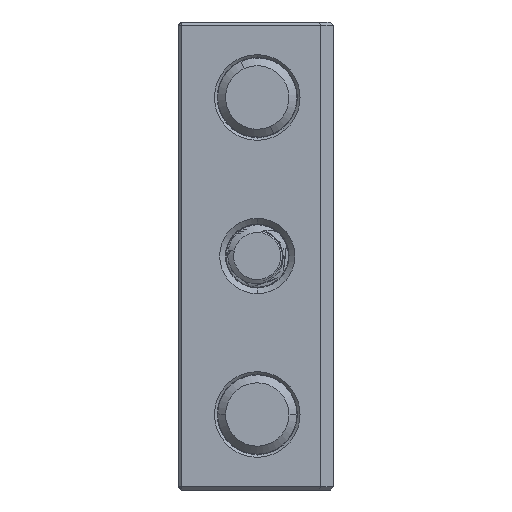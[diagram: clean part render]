
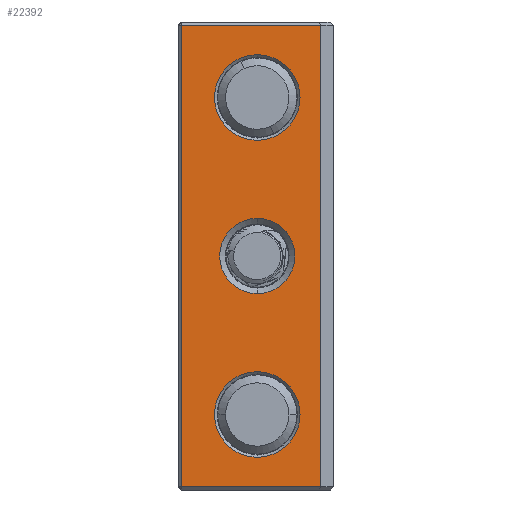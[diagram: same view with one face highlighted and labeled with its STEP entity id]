
A CAD part, left-side view. The second image highlights one B-rep face of the part: STEP entity #22392.
In plain terms, the highlighted planar face has unit normal (-1, 0, 0) as drawn and (1, 0, 0) by its records, which use the part's own axes.
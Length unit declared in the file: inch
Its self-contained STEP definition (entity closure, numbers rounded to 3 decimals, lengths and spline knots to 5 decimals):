
#273 = CARTESIAN_POINT ( 'NONE',  ( 0.98425, 0.48, 1.47638 ) ) ;
#352 = EDGE_LOOP ( 'NONE', ( #28694, #23544 ) ) ;
#532 = EDGE_CURVE ( 'NONE', #4419, #24435, #28113, .T. ) ;
#565 = EDGE_CURVE ( 'NONE', #4609, #12780, #4266, .T. ) ;
#1523 = CARTESIAN_POINT ( 'NONE',  ( 0.98425, 0.08, 2.95276 ) ) ;
#1534 = ORIENTED_EDGE ( 'NONE', *, *, #13698, .T. ) ;
#2546 = CARTESIAN_POINT ( 'NONE',  ( 0.98425, 0.96, 2.95276 ) ) ;
#2571 = DIRECTION ( 'NONE',  ( -1., 0., 0. ) ) ;
#2641 = CARTESIAN_POINT ( 'NONE',  ( 0.98425, 0.48, 0.74638 ) ) ;
#2891 = VERTEX_POINT ( 'NONE', #25054 ) ;
#3361 = CARTESIAN_POINT ( 'NONE',  ( 0.98425, 0.48, 2.47638 ) ) ;
#3440 = EDGE_CURVE ( 'NONE', #22953, #2891, #22677, .T. ) ;
#4205 = EDGE_LOOP ( 'NONE', ( #26550, #8844, #8474, #22320 ) ) ;
#4224 = VERTEX_POINT ( 'NONE', #23528 ) ;
#4266 = CIRCLE ( 'NONE', #15489, 0.27 ) ;
#4419 = VERTEX_POINT ( 'NONE', #26302 ) ;
#4609 = VERTEX_POINT ( 'NONE', #22632 ) ;
#4860 = DIRECTION ( 'NONE',  ( 0., 0., -1. ) ) ;
#5118 = DIRECTION ( 'NONE',  ( -1., 0., 0. ) ) ;
#5152 = CARTESIAN_POINT ( 'NONE',  ( 0.98425, 0., 2.93276 ) ) ;
#5658 = AXIS2_PLACEMENT_3D ( 'NONE', #17489, #23931, #12674 ) ;
#6833 = ORIENTED_EDGE ( 'NONE', *, *, #11518, .F. ) ;
#7649 = LINE ( 'NONE', #5152, #9457 ) ;
#8028 = CIRCLE ( 'NONE', #8945, 0.27 ) ;
#8474 = ORIENTED_EDGE ( 'NONE', *, *, #15599, .T. ) ;
#8598 = FACE_BOUND ( 'NONE', #352, .T. ) ;
#8844 = ORIENTED_EDGE ( 'NONE', *, *, #3440, .T. ) ;
#8945 = AXIS2_PLACEMENT_3D ( 'NONE', #21903, #26597, #28638 ) ;
#9175 = FACE_BOUND ( 'NONE', #21939, .T. ) ;
#9295 = DIRECTION ( 'NONE',  ( 0., 0., 1. ) ) ;
#9457 = VECTOR ( 'NONE', #25812, 39.37008 ) ;
#9660 = VERTEX_POINT ( 'NONE', #13074 ) ;
#11266 = CARTESIAN_POINT ( 'NONE',  ( 0.98425, 0.98, 0.02 ) ) ;
#11518 = EDGE_CURVE ( 'NONE', #24435, #4419, #15672, .T. ) ;
#11626 = DIRECTION ( 'NONE',  ( 1., 0., 0. ) ) ;
#12608 = DIRECTION ( 'NONE',  ( 0., 0., -1. ) ) ;
#12674 = DIRECTION ( 'NONE',  ( 0., 0., -1. ) ) ;
#12780 = VERTEX_POINT ( 'NONE', #2641 ) ;
#13074 = CARTESIAN_POINT ( 'NONE',  ( 0.98425, 0.48, 1.71358 ) ) ;
#13584 = EDGE_LOOP ( 'NONE', ( #19379, #1534 ) ) ;
#13698 = EDGE_CURVE ( 'NONE', #9660, #4224, #26047, .T. ) ;
#13962 = AXIS2_PLACEMENT_3D ( 'NONE', #273, #5118, #20361 ) ;
#14151 = LINE ( 'NONE', #2546, #16180 ) ;
#15489 = AXIS2_PLACEMENT_3D ( 'NONE', #22893, #11626, #4860 ) ;
#15514 = DIRECTION ( 'NONE',  ( 0., 1., 0. ) ) ;
#15599 = EDGE_CURVE ( 'NONE', #2891, #26617, #14151, .T. ) ;
#15629 = DIRECTION ( 'NONE',  ( 0., 0., 1. ) ) ;
#15672 = CIRCLE ( 'NONE', #26443, 0.27 ) ;
#15922 = FACE_OUTER_BOUND ( 'NONE', #4205, .T. ) ;
#16180 = VECTOR ( 'NONE', #9295, 39.37008 ) ;
#16514 = EDGE_CURVE ( 'NONE', #4224, #9660, #17684, .T. ) ;
#16546 = CARTESIAN_POINT ( 'NONE',  ( 0.98425, 0.96, 2.93276 ) ) ;
#17489 = CARTESIAN_POINT ( 'NONE',  ( 0.98425, 0.48, 2.47638 ) ) ;
#17563 = EDGE_CURVE ( 'NONE', #23868, #22953, #23817, .T. ) ;
#17684 = CIRCLE ( 'NONE', #13962, 0.2372 ) ;
#18089 = DIRECTION ( 'NONE',  ( -1., 0., 0. ) ) ;
#18696 = ORIENTED_EDGE ( 'NONE', *, *, #532, .F. ) ;
#19135 = VECTOR ( 'NONE', #19576, 39.37008 ) ;
#19330 = DIRECTION ( 'NONE',  ( 1., 0., 0. ) ) ;
#19379 = ORIENTED_EDGE ( 'NONE', *, *, #16514, .T. ) ;
#19408 = AXIS2_PLACEMENT_3D ( 'NONE', #22654, #2571, #15629 ) ;
#19576 = DIRECTION ( 'NONE',  ( 0., 0., -1. ) ) ;
#20131 = CARTESIAN_POINT ( 'NONE',  ( 0.98425, 0.08, 0.02 ) ) ;
#20361 = DIRECTION ( 'NONE',  ( 0., 0., 1. ) ) ;
#20872 = AXIS2_PLACEMENT_3D ( 'NONE', #23056, #18089, #27309 ) ;
#21903 = CARTESIAN_POINT ( 'NONE',  ( 0.98425, 0.48, 0.47638 ) ) ;
#21939 = EDGE_LOOP ( 'NONE', ( #6833, #18696 ) ) ;
#22320 = ORIENTED_EDGE ( 'NONE', *, *, #28909, .T. ) ;
#22392 = ADVANCED_FACE ( 'NONE', ( #8598, #9175, #27056, #15922 ), #24841, .F. ) ;
#22481 = CARTESIAN_POINT ( 'NONE',  ( 0.98425, 0.08, 2.93276 ) ) ;
#22632 = CARTESIAN_POINT ( 'NONE',  ( 0.98425, 0.48, 0.20638 ) ) ;
#22654 = CARTESIAN_POINT ( 'NONE',  ( 0.98425, 0., 2.95276 ) ) ;
#22677 = LINE ( 'NONE', #11266, #28669 ) ;
#22893 = CARTESIAN_POINT ( 'NONE',  ( 0.98425, 0.48, 0.47638 ) ) ;
#22953 = VERTEX_POINT ( 'NONE', #20131 ) ;
#23056 = CARTESIAN_POINT ( 'NONE',  ( 0.98425, 0.48, 1.47638 ) ) ;
#23528 = CARTESIAN_POINT ( 'NONE',  ( 0.98425, 0.48, 1.23917 ) ) ;
#23544 = ORIENTED_EDGE ( 'NONE', *, *, #26858, .F. ) ;
#23817 = LINE ( 'NONE', #1523, #19135 ) ;
#23868 = VERTEX_POINT ( 'NONE', #22481 ) ;
#23931 = DIRECTION ( 'NONE',  ( 1., 0., 0. ) ) ;
#24435 = VERTEX_POINT ( 'NONE', #27529 ) ;
#24841 = PLANE ( 'NONE',  #19408 ) ;
#25054 = CARTESIAN_POINT ( 'NONE',  ( 0.98425, 0.96, 0.02 ) ) ;
#25812 = DIRECTION ( 'NONE',  ( 0., -1., 0. ) ) ;
#26047 = CIRCLE ( 'NONE', #20872, 0.2372 ) ;
#26302 = CARTESIAN_POINT ( 'NONE',  ( 0.98425, 0.48, 2.74638 ) ) ;
#26443 = AXIS2_PLACEMENT_3D ( 'NONE', #3361, #19330, #12608 ) ;
#26550 = ORIENTED_EDGE ( 'NONE', *, *, #17563, .T. ) ;
#26597 = DIRECTION ( 'NONE',  ( 1., 0., 0. ) ) ;
#26617 = VERTEX_POINT ( 'NONE', #16546 ) ;
#26858 = EDGE_CURVE ( 'NONE', #12780, #4609, #8028, .T. ) ;
#27056 = FACE_BOUND ( 'NONE', #13584, .T. ) ;
#27309 = DIRECTION ( 'NONE',  ( 0., 0., 1. ) ) ;
#27529 = CARTESIAN_POINT ( 'NONE',  ( 0.98425, 0.48, 2.20638 ) ) ;
#28113 = CIRCLE ( 'NONE', #5658, 0.27 ) ;
#28638 = DIRECTION ( 'NONE',  ( 0., 0., -1. ) ) ;
#28669 = VECTOR ( 'NONE', #15514, 39.37008 ) ;
#28694 = ORIENTED_EDGE ( 'NONE', *, *, #565, .F. ) ;
#28909 = EDGE_CURVE ( 'NONE', #26617, #23868, #7649, .T. ) ;
